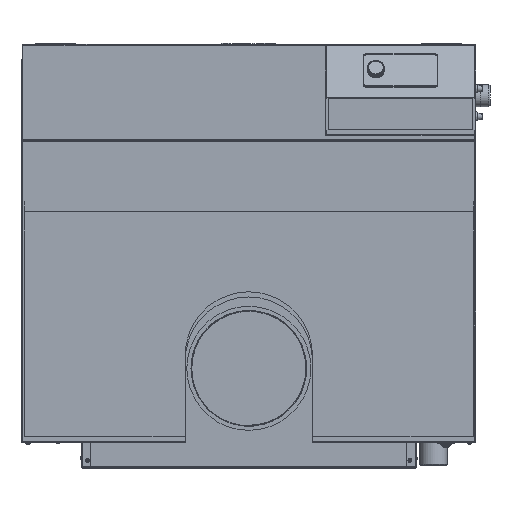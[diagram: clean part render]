
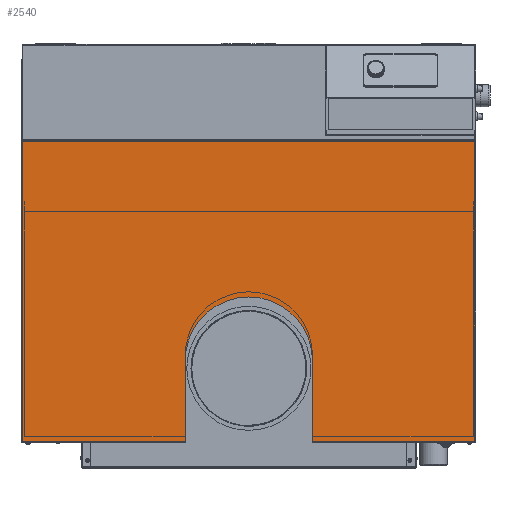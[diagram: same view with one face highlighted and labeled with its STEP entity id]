
A CAD part, top view. The second image highlights one B-rep face of the part: STEP entity #2540.
In plain terms, the highlighted planar face has unit normal (0, 0, 1).
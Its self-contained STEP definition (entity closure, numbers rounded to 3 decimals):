
#2540=ADVANCED_FACE('',(#26168),#26170,.T.);
#26168=FACE_BOUND('',#26169,.T.);
#26169=EDGE_LOOP('',(#72673,#72674,#72675,#72676,#72677,#72678,#72679,#72680));
#26170=PLANE('',#26171);
#26171=AXIS2_PLACEMENT_3D('',#26172,#26173,#26174);
#26172=CARTESIAN_POINT('',(0.,-43.5,870.5));
#26173=DIRECTION('',(0.,0.,1.));
#26174=DIRECTION('',(1.,0.,0.));
#72673=ORIENTED_EDGE('',*,*,#95193,.T.);
#72674=ORIENTED_EDGE('',*,*,#95194,.T.);
#72675=ORIENTED_EDGE('',*,*,#95195,.T.);
#72676=ORIENTED_EDGE('',*,*,#95196,.T.);
#72677=ORIENTED_EDGE('',*,*,#94359,.T.);
#72678=ORIENTED_EDGE('',*,*,#94380,.T.);
#72679=ORIENTED_EDGE('',*,*,#95197,.T.);
#72680=ORIENTED_EDGE('',*,*,#95198,.T.);
#94359=EDGE_CURVE('',#112185,#112187,#112189,.T.);
#94380=EDGE_CURVE('',#112187,#112218,#112220,.T.);
#95193=EDGE_CURVE('',#113609,#113610,#113611,.F.);
#95194=EDGE_CURVE('',#113610,#113612,#113613,.F.);
#95195=EDGE_CURVE('',#113612,#112534,#113614,.F.);
#95196=EDGE_CURVE('',#112534,#112185,#113615,.T.);
#95197=EDGE_CURVE('',#112218,#113616,#113617,.T.);
#95198=EDGE_CURVE('',#113616,#113609,#113618,.T.);
#112185=VERTEX_POINT('',#152169);
#112187=VERTEX_POINT('',#152191);
#112189=LINE('',#152196,#152197);
#112218=VERTEX_POINT('',#152305);
#112220=LINE('',#152323,#152324);
#112534=VERTEX_POINT('',#153683);
#113609=VERTEX_POINT('',#157284);
#113610=VERTEX_POINT('',#157285);
#113611=LINE('',#157286,#157287);
#113612=VERTEX_POINT('',#157289);
#113613=CIRCLE('',#157290,137.5);
#113614=LINE('',#157294,#157295);
#113615=LINE('',#157297,#157298);
#113616=VERTEX_POINT('',#157300);
#113617=LINE('',#157301,#157302);
#113618=LINE('',#157304,#157305);
#152169=CARTESIAN_POINT('',(488.,-367.,870.5));
#152191=CARTESIAN_POINT('',(488.,280.,870.5));
#152196=CARTESIAN_POINT('',(488.,-367.,870.5));
#152197=VECTOR('',#152198,1.);
#152198=DIRECTION('',(0.,1.,0.));
#152305=CARTESIAN_POINT('',(-488.,280.,870.5));
#152323=CARTESIAN_POINT('',(488.,280.,870.5));
#152324=VECTOR('',#152325,1.);
#152325=DIRECTION('',(-1.,0.,0.));
#153683=CARTESIAN_POINT('',(137.5,-367.,870.5));
#157284=CARTESIAN_POINT('',(-137.5,-367.,870.5));
#157285=CARTESIAN_POINT('',(-137.5,-193.,870.5));
#157286=CARTESIAN_POINT('',(-137.5,-193.,870.5));
#157287=VECTOR('',#157288,1.);
#157288=DIRECTION('',(0.,-1.,0.));
#157289=CARTESIAN_POINT('',(137.5,-193.,870.5));
#157290=AXIS2_PLACEMENT_3D('',#157291,#157292,#157293);
#157291=CARTESIAN_POINT('',(0.,-193.,870.5));
#157292=DIRECTION('',(0.,0.,1.));
#157293=DIRECTION('',(1.,0.,0.));
#157294=CARTESIAN_POINT('',(137.5,-367.,870.5));
#157295=VECTOR('',#157296,1.);
#157296=DIRECTION('',(0.,1.,0.));
#157297=CARTESIAN_POINT('',(137.5,-367.,870.5));
#157298=VECTOR('',#157299,1.);
#157299=DIRECTION('',(1.,0.,0.));
#157300=CARTESIAN_POINT('',(-488.,-367.,870.5));
#157301=CARTESIAN_POINT('',(-488.,280.,870.5));
#157302=VECTOR('',#157303,1.);
#157303=DIRECTION('',(0.,-1.,0.));
#157304=CARTESIAN_POINT('',(-488.,-367.,870.5));
#157305=VECTOR('',#157306,1.);
#157306=DIRECTION('',(1.,0.,0.));
